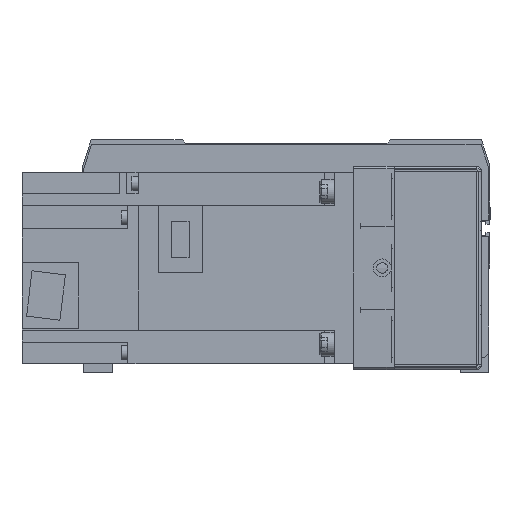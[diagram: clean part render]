
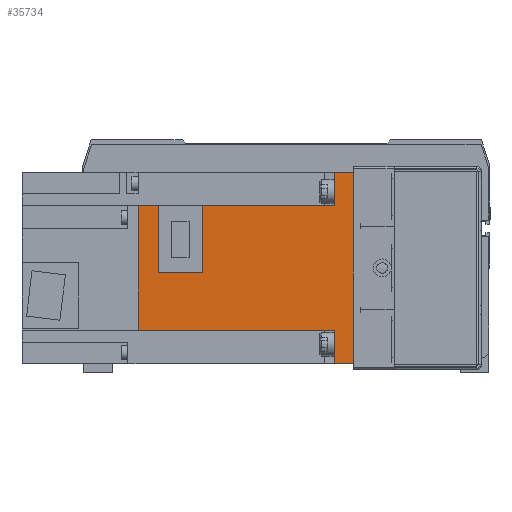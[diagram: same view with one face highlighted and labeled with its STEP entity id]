
A CAD part, front view. The second image highlights one B-rep face of the part: STEP entity #35734.
In plain terms, the highlighted planar face has unit normal (0, -1, 0) as drawn and (1, 0, 0) by its records, which use the part's own axes.
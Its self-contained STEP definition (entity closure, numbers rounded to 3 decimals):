
#390 = EDGE_LOOP ( 'NONE', ( #5755, #23139, #29504, #35738, #3125, #16519, #28761, #4647, #34831, #24438, #12079, #9959 ) ) ;
#740 = DIRECTION ( 'NONE',  ( 0., 1., 0. ) ) ;
#1224 = VERTEX_POINT ( 'NONE', #5745 ) ;
#1452 = CARTESIAN_POINT ( 'NONE',  ( 40., 81.4, 40. ) ) ;
#1678 = FACE_OUTER_BOUND ( 'NONE', #390, .T. ) ;
#2203 = CARTESIAN_POINT ( 'NONE',  ( 40., 89.8, -25.95 ) ) ;
#2375 = LINE ( 'NONE', #35658, #27989 ) ;
#2599 = CARTESIAN_POINT ( 'NONE',  ( 40., 89.8, -25.95 ) ) ;
#3125 = ORIENTED_EDGE ( 'NONE', *, *, #18926, .F. ) ;
#3668 = DIRECTION ( 'NONE',  ( 0., 0., -1. ) ) ;
#3863 = LINE ( 'NONE', #25629, #9660 ) ;
#3963 = VECTOR ( 'NONE', #31347, 1000. ) ;
#4499 = CARTESIAN_POINT ( 'NONE',  ( 40., 81.4, 1.8 ) ) ;
#4647 = ORIENTED_EDGE ( 'NONE', *, *, #8891, .F. ) ;
#4744 = DIRECTION ( 'NONE',  ( 0., 0., 1. ) ) ;
#4872 = CARTESIAN_POINT ( 'NONE',  ( 40., 89.8, 40. ) ) ;
#4940 = LINE ( 'NONE', #2599, #15149 ) ;
#5745 = CARTESIAN_POINT ( 'NONE',  ( 40., 8., 40. ) ) ;
#5755 = ORIENTED_EDGE ( 'NONE', *, *, #27369, .F. ) ;
#6214 = VERTEX_POINT ( 'NONE', #18335 ) ;
#6484 = CARTESIAN_POINT ( 'NONE',  ( 40., 8., -25.95 ) ) ;
#6518 = DIRECTION ( 'NONE',  ( 0., 0., -1. ) ) ;
#7841 = EDGE_CURVE ( 'NONE', #30990, #31311, #14362, .T. ) ;
#7972 = DIRECTION ( 'NONE',  ( 0., 0., -1. ) ) ;
#8440 = DIRECTION ( 'NONE',  ( 0., -1., 0. ) ) ;
#8891 = EDGE_CURVE ( 'NONE', #14493, #35518, #13767, .T. ) ;
#9660 = VECTOR ( 'NONE', #740, 1000. ) ;
#9959 = ORIENTED_EDGE ( 'NONE', *, *, #31522, .F. ) ;
#10048 = CARTESIAN_POINT ( 'NONE',  ( 40., 89.8, 25.95 ) ) ;
#11049 = EDGE_CURVE ( 'NONE', #31827, #6214, #19412, .T. ) ;
#11502 = LINE ( 'NONE', #22660, #22645 ) ;
#11666 = VECTOR ( 'NONE', #8440, 1000. ) ;
#12079 = ORIENTED_EDGE ( 'NONE', *, *, #7841, .F. ) ;
#12442 = CARTESIAN_POINT ( 'NONE',  ( 40., 89.8, -25.95 ) ) ;
#12459 = CARTESIAN_POINT ( 'NONE',  ( 40., 8., 40. ) ) ;
#12721 = CARTESIAN_POINT ( 'NONE',  ( 40., 8., -40. ) ) ;
#13091 = CARTESIAN_POINT ( 'NONE',  ( 40., 89.8, 1.8 ) ) ;
#13767 = LINE ( 'NONE', #12459, #20043 ) ;
#13860 = DIRECTION ( 'NONE',  ( 0., 0., -1. ) ) ;
#14362 = LINE ( 'NONE', #13091, #14849 ) ;
#14493 = VERTEX_POINT ( 'NONE', #6484 ) ;
#14806 = CARTESIAN_POINT ( 'NONE',  ( 40., 89.8, 40. ) ) ;
#14849 = VECTOR ( 'NONE', #34569, 1000. ) ;
#15149 = VECTOR ( 'NONE', #17914, 1000. ) ;
#15258 = CARTESIAN_POINT ( 'NONE',  ( 40., 8., 40. ) ) ;
#15752 = CARTESIAN_POINT ( 'NONE',  ( 40., 8., 25.95 ) ) ;
#16519 = ORIENTED_EDGE ( 'NONE', *, *, #11049, .T. ) ;
#16534 = VECTOR ( 'NONE', #16649, 1000. ) ;
#16649 = DIRECTION ( 'NONE',  ( 0., 0., 1. ) ) ;
#17914 = DIRECTION ( 'NONE',  ( 0., -1., 0. ) ) ;
#17960 = LINE ( 'NONE', #2203, #11666 ) ;
#18254 = CARTESIAN_POINT ( 'NONE',  ( 40., 89.8, 25.95 ) ) ;
#18335 = CARTESIAN_POINT ( 'NONE',  ( 40., 0., -40. ) ) ;
#18926 = EDGE_CURVE ( 'NONE', #31827, #1224, #22569, .T. ) ;
#19412 = LINE ( 'NONE', #33533, #27010 ) ;
#20006 = DIRECTION ( 'NONE',  ( -1., 0., 0. ) ) ;
#20043 = VECTOR ( 'NONE', #6518, 1000. ) ;
#20130 = EDGE_CURVE ( 'NONE', #1224, #32803, #37918, .T. ) ;
#20279 = PLANE ( 'NONE',  #26508 ) ;
#21535 = VECTOR ( 'NONE', #24015, 1000. ) ;
#22569 = LINE ( 'NONE', #14806, #39493 ) ;
#22645 = VECTOR ( 'NONE', #13860, 1000. ) ;
#22660 = CARTESIAN_POINT ( 'NONE',  ( 40., 89.8, 40. ) ) ;
#23139 = ORIENTED_EDGE ( 'NONE', *, *, #30513, .F. ) ;
#24015 = DIRECTION ( 'NONE',  ( 0., 0., -1. ) ) ;
#24438 = ORIENTED_EDGE ( 'NONE', *, *, #33244, .F. ) ;
#25125 = CARTESIAN_POINT ( 'NONE',  ( 40., 0., 40. ) ) ;
#25210 = VERTEX_POINT ( 'NONE', #33362 ) ;
#25629 = CARTESIAN_POINT ( 'NONE',  ( 40., 89.8, -40. ) ) ;
#26508 = AXIS2_PLACEMENT_3D ( 'NONE', #4872, #20006, #4744 ) ;
#27010 = VECTOR ( 'NONE', #3668, 1000. ) ;
#27369 = EDGE_CURVE ( 'NONE', #37277, #25210, #4940, .T. ) ;
#27457 = CARTESIAN_POINT ( 'NONE',  ( 40., 62.8, -25.95 ) ) ;
#27480 = VERTEX_POINT ( 'NONE', #27457 ) ;
#27989 = VECTOR ( 'NONE', #7972, 1000. ) ;
#28116 = EDGE_CURVE ( 'NONE', #32803, #37348, #36842, .T. ) ;
#28761 = ORIENTED_EDGE ( 'NONE', *, *, #38508, .T. ) ;
#29504 = ORIENTED_EDGE ( 'NONE', *, *, #28116, .F. ) ;
#29625 = DIRECTION ( 'NONE',  ( 0., 1., 0. ) ) ;
#30513 = EDGE_CURVE ( 'NONE', #37348, #37277, #11502, .T. ) ;
#30990 = VERTEX_POINT ( 'NONE', #4499 ) ;
#31311 = VERTEX_POINT ( 'NONE', #37022 ) ;
#31347 = DIRECTION ( 'NONE',  ( 0., 1., 0. ) ) ;
#31522 = EDGE_CURVE ( 'NONE', #25210, #30990, #33893, .T. ) ;
#31689 = EDGE_CURVE ( 'NONE', #27480, #14493, #17960, .T. ) ;
#31827 = VERTEX_POINT ( 'NONE', #25125 ) ;
#32803 = VERTEX_POINT ( 'NONE', #15752 ) ;
#33244 = EDGE_CURVE ( 'NONE', #31311, #27480, #2375, .T. ) ;
#33362 = CARTESIAN_POINT ( 'NONE',  ( 40., 81.4, -25.95 ) ) ;
#33533 = CARTESIAN_POINT ( 'NONE',  ( 40., 0., 0. ) ) ;
#33893 = LINE ( 'NONE', #1452, #16534 ) ;
#34569 = DIRECTION ( 'NONE',  ( 0., -1., 0. ) ) ;
#34831 = ORIENTED_EDGE ( 'NONE', *, *, #31689, .F. ) ;
#35518 = VERTEX_POINT ( 'NONE', #12721 ) ;
#35658 = CARTESIAN_POINT ( 'NONE',  ( 40., 62.8, 40. ) ) ;
#35734 = ADVANCED_FACE ( 'NONE', ( #1678 ), #20279, .F. ) ;
#35738 = ORIENTED_EDGE ( 'NONE', *, *, #20130, .F. ) ;
#36842 = LINE ( 'NONE', #18254, #3963 ) ;
#37022 = CARTESIAN_POINT ( 'NONE',  ( 40., 62.8, 1.8 ) ) ;
#37277 = VERTEX_POINT ( 'NONE', #12442 ) ;
#37348 = VERTEX_POINT ( 'NONE', #10048 ) ;
#37918 = LINE ( 'NONE', #15258, #21535 ) ;
#38508 = EDGE_CURVE ( 'NONE', #6214, #35518, #3863, .T. ) ;
#39493 = VECTOR ( 'NONE', #29625, 1000. ) ;
